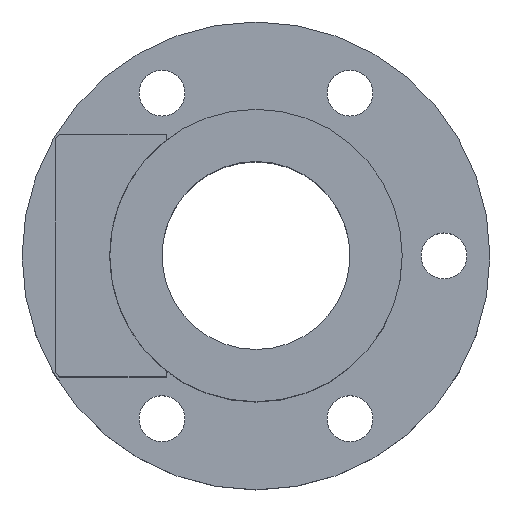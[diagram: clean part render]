
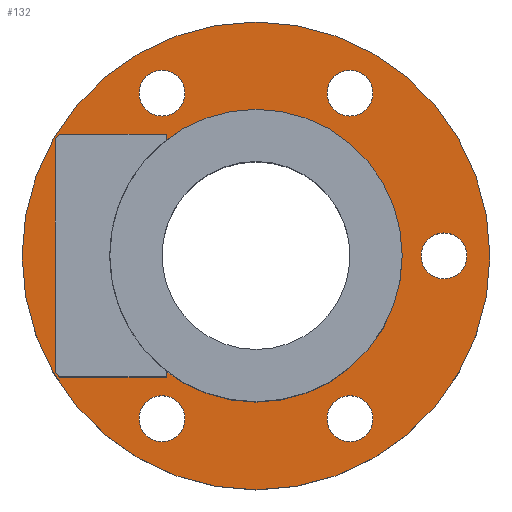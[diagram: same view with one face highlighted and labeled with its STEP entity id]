
A CAD part, top view. The second image highlights one B-rep face of the part: STEP entity #132.
In plain terms, the highlighted planar face has unit normal (0, 0, 1).
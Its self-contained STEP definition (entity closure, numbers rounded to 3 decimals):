
#97=PLANE('',#557);
#114=FACE_OUTER_BOUND('',#269,.T.);
#132=ADVANCED_FACE('',(#221,#222,#223,#114,#224,#225,#226),#97,.T.);
#221=FACE_BOUND('',#266,.T.);
#222=FACE_BOUND('',#267,.T.);
#223=FACE_BOUND('',#268,.T.);
#224=FACE_BOUND('',#270,.T.);
#225=FACE_BOUND('',#271,.T.);
#226=FACE_BOUND('',#272,.T.);
#266=EDGE_LOOP('',(#331));
#267=EDGE_LOOP('',(#332));
#268=EDGE_LOOP('',(#333));
#269=EDGE_LOOP('',(#334));
#270=EDGE_LOOP('',(#335));
#271=EDGE_LOOP('',(#336));
#272=EDGE_LOOP('',(#337));
#331=ORIENTED_EDGE('',*,*,#473,.F.);
#332=ORIENTED_EDGE('',*,*,#474,.F.);
#333=ORIENTED_EDGE('',*,*,#468,.F.);
#334=ORIENTED_EDGE('',*,*,#475,.T.);
#335=ORIENTED_EDGE('',*,*,#476,.F.);
#336=ORIENTED_EDGE('',*,*,#477,.F.);
#337=ORIENTED_EDGE('',*,*,#478,.F.);
#426=VERTEX_POINT('',#748);
#431=VERTEX_POINT('',#759);
#432=VERTEX_POINT('',#761);
#433=VERTEX_POINT('',#763);
#434=VERTEX_POINT('',#765);
#435=VERTEX_POINT('',#767);
#436=VERTEX_POINT('',#769);
#468=EDGE_CURVE('',#426,#426,#518,.T.);
#473=EDGE_CURVE('',#431,#431,#521,.T.);
#474=EDGE_CURVE('',#432,#432,#522,.T.);
#475=EDGE_CURVE('',#433,#433,#523,.T.);
#476=EDGE_CURVE('',#434,#434,#524,.T.);
#477=EDGE_CURVE('',#435,#435,#525,.T.);
#478=EDGE_CURVE('',#436,#436,#526,.T.);
#518=CIRCLE('',#547,35.);
#521=CIRCLE('',#551,5.5);
#522=CIRCLE('',#552,5.5);
#523=CIRCLE('',#553,56.);
#524=CIRCLE('',#554,5.5);
#525=CIRCLE('',#555,5.5);
#526=CIRCLE('',#556,5.5);
#547=AXIS2_PLACEMENT_3D('',#747,#608,#609);
#551=AXIS2_PLACEMENT_3D('',#758,#618,#619);
#552=AXIS2_PLACEMENT_3D('',#760,#620,#621);
#553=AXIS2_PLACEMENT_3D('',#762,#622,#623);
#554=AXIS2_PLACEMENT_3D('',#764,#624,#625);
#555=AXIS2_PLACEMENT_3D('',#766,#626,#627);
#556=AXIS2_PLACEMENT_3D('',#768,#628,#629);
#557=AXIS2_PLACEMENT_3D('',#770,#630,#631);
#608=DIRECTION('',(0.,0.,1.));
#609=DIRECTION('',(1.,0.,0.));
#618=DIRECTION('',(0.,0.,1.));
#619=DIRECTION('',(-0.5,-0.866,0.));
#620=DIRECTION('',(0.,0.,1.));
#621=DIRECTION('',(0.5,0.866,0.));
#622=DIRECTION('',(0.,0.,1.));
#623=DIRECTION('',(1.,0.,0.));
#624=DIRECTION('',(0.,0.,1.));
#625=DIRECTION('',(1.,0.,0.));
#626=DIRECTION('',(0.,0.,1.));
#627=DIRECTION('',(-1.,0.,0.));
#628=DIRECTION('',(0.,0.,1.));
#629=DIRECTION('',(0.5,-0.866,0.));
#630=DIRECTION('',(0.,0.,1.));
#631=DIRECTION('',(1.,0.,0.));
#747=CARTESIAN_POINT('',(0.,0.,18.));
#748=CARTESIAN_POINT('',(35.,0.,18.));
#758=CARTESIAN_POINT('',(22.5,-38.971,18.));
#759=CARTESIAN_POINT('',(19.75,-43.734,18.));
#760=CARTESIAN_POINT('',(-22.5,38.971,18.));
#761=CARTESIAN_POINT('',(-19.75,43.734,18.));
#762=CARTESIAN_POINT('',(0.,0.,18.));
#763=CARTESIAN_POINT('',(56.,0.,18.));
#764=CARTESIAN_POINT('',(22.5,38.971,18.));
#765=CARTESIAN_POINT('',(28.,38.971,18.));
#766=CARTESIAN_POINT('',(-22.5,-38.971,18.));
#767=CARTESIAN_POINT('',(-28.,-38.971,18.));
#768=CARTESIAN_POINT('',(45.,0.,18.));
#769=CARTESIAN_POINT('',(47.75,-4.763,18.));
#770=CARTESIAN_POINT('',(0.,0.,18.));
